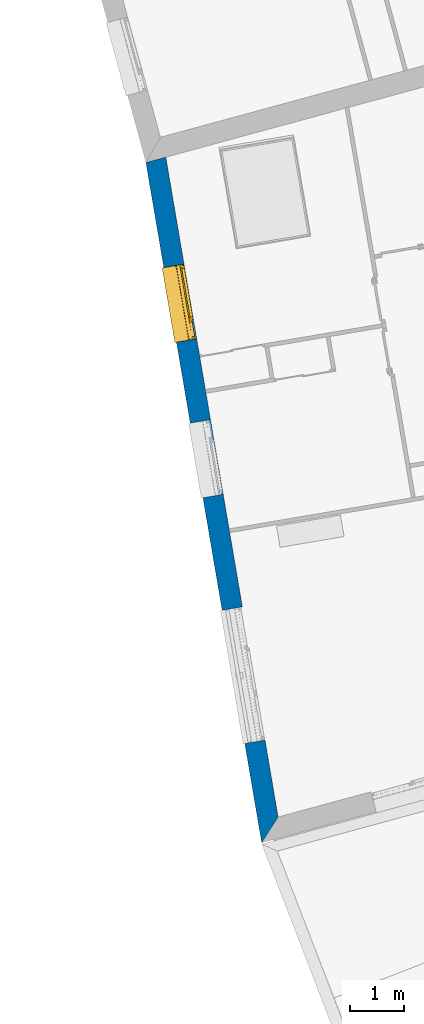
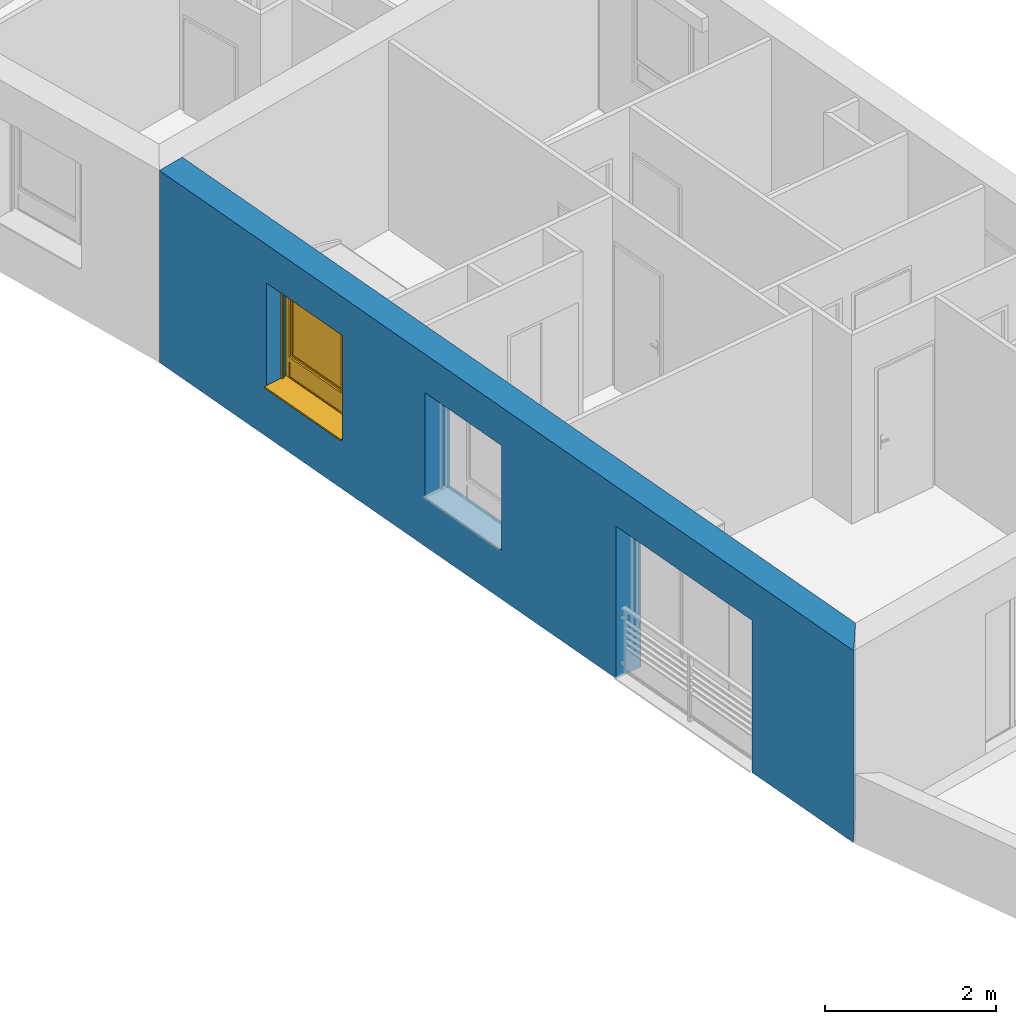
# One storey, part 72 of 121: 1 wall, 1 window, 3 openings.
"""IFC2X3 building model written with IfcOpenShell, lengths in metres."""

from ifc_helpers import new_model, entity, si_unit, converted_unit, derived_unit, money_unit, direction, frame, origin_with_axes, place, context, subcontext, project, spatial, polyline, outline, extrude, open_shell, faceted_brep, surface_model, source, transform, mapped, material, layer, layer_set, layer_usage, type_object, element, fill, save


model = new_model("IFC2X3")

# Units and contexts
model_context = context("Model", 3, precision=1e-05, world=origin_with_axes(), true_north=direction((0.0, 1.0)))
body_context = subcontext(model_context, "Body", "Model", "MODEL_VIEW")
ifc_project = project(units=[si_unit("LENGTHUNIT", "METRE"), si_unit("AREAUNIT", "SQUARE_METRE"), si_unit("VOLUMEUNIT", "CUBIC_METRE"), converted_unit("PLANEANGLEUNIT", "DEGREE", entity("IfcPlaneAngleMeasure", 0.0174532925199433), si_unit("PLANEANGLEUNIT", "RADIAN"), dimensions=[0, 0, 0, 0, 0, 0, 0]), money_unit("CHF"), converted_unit("TIMEUNIT", "Year", entity("IfcTimeMeasure", 31557600.0), si_unit("TIMEUNIT", "SECOND"), dimensions=[0, 0, 1, 0, 0, 0, 0]), si_unit("MASSUNIT", "GRAM", prefix="KILO"), si_unit("THERMODYNAMICTEMPERATUREUNIT", "DEGREE_CELSIUS"), si_unit("LUMINOUSINTENSITYUNIT", "LUMEN"), si_unit("ENERGYUNIT", "JOULE", prefix="MEGA"), derived_unit("THERMALCONDUCTANCEUNIT", [(si_unit("POWERUNIT", "WATT"), 1), (si_unit("LENGTHUNIT", "METRE"), -1), (si_unit("THERMODYNAMICTEMPERATUREUNIT", "KELVIN"), -1)]), derived_unit("SPECIFICHEATCAPACITYUNIT", [(si_unit("ENERGYUNIT", "JOULE"), 1), (si_unit("MASSUNIT", "GRAM", prefix="KILO"), -1), (si_unit("THERMODYNAMICTEMPERATUREUNIT", "KELVIN"), -1)]), derived_unit("MASSDENSITYUNIT", [(si_unit("MASSUNIT", "GRAM", prefix="KILO"), 1), (si_unit("VOLUMEUNIT", "CUBIC_METRE"), -1)])], contexts=[model_context])

# Site, building, storey
site_placement = place(None, origin_with_axes())
site = spatial("IfcSite", under=ifc_project, at=site_placement, Name="Site", CompositionType="ELEMENT")
building_placement = place(site_placement, origin_with_axes())
building = spatial("IfcBuilding", under=site, at=building_placement, Name="Bâtiment", CompositionType="ELEMENT")
storey_placement = place(building_placement, frame((0.0, 0.0, 2.75), z_axis=(0.0, 0.0, 1.0), x_axis=(1.0, 0.0, 0.0)))
storey = spatial("IfcBuildingStorey", under=building, at=storey_placement, Name="Etage 1", CompositionType="ELEMENT", Elevation=2.75)

# Wall, openings, window
ifc_material_1 = material(Name="Parpaing 312445824")
ifc_layer_1 = layer(ifc_material_1, 0.22, ventilated="UNKNOWN")
ifc_material_2 = material(Name="Isolant styromousse 301821074")
ifc_layer_2 = layer(ifc_material_2, 0.16, ventilated="UNKNOWN")
ifc_layer_set = layer_set([ifc_layer_1, ifc_layer_2], Name="isol int 22+16 0836643197")
ifc_layer_usage = layer_usage(ifc_layer_set, "AXIS2", "POSITIVE", 0.0)
wall_type = type_object("IfcWallType", Name="isol int 22+16 0836643197 380", PredefinedType="NOTDEFINED")
wall_placement = place(storey_placement, frame((9579.832207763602, -1023.04273507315, 57.7), z_axis=(0.0, 0.0, 1.0), x_axis=(0.1677527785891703, -0.9858290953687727, 0.0)))
wall = element("IfcWallStandardCase", 1, at=wall_placement, inside=storey, type_object=wall_type, material=ifc_layer_usage, Name="Mur-113", context=body_context, shape_type="SweptSolid", body=[
    extrude(outline(polyline([(0.0, 0.0), (12.75935139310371, 0.0), (12.34045223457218, 0.3800000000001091), (-0.03709306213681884, 0.3800000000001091), (0.0, 0.0)])), origin_with_axes(), (0.0, 0.0, 1.0), 2.75),
])
opening_1_placement = place(wall_placement, frame((2.669998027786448, 0.0, 0.7000000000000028), z_axis=(0.0, 0.0, 1.0), x_axis=(1.0, 0.0, 0.0)))
opening_1 = element("IfcOpeningElement", 2, at=opening_1_placement, cuts=wall, Name="Fen-045", context=body_context, shape_type="Brep", body=[
    faceted_brep([(-0.700000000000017, 0.4799999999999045, 1.5), (0.6999999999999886, 0.4799999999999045, 1.5), (0.6999999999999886, 2.491085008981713, 1.5), (-0.700000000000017, 2.491085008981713, 1.5), (-0.700000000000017, 0.4799999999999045, 1.700000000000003), (0.6999999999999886, 0.4799999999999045, 1.700000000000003), (0.6999999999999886, 0.2999999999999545, 1.5), (0.6999999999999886, 0.2999999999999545, 0.0), (0.6999999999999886, 2.491085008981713, 0.0), (-0.700000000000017, 2.491085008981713, 0.0), (-0.700000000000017, 0.2999999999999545, 1.5), (-0.6999999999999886, 0.2999999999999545, 0.0), (-0.6999999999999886, 0.2199999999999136, 1.5), (-0.6999999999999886, 0.2199999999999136, 1.700000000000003), (0.6999999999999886, 0.2199999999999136, 1.700000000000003), (0.6999999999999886, 0.2199999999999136, 1.5), (0.6999999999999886, -2.111085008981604, 1.5), (0.6999999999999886, -2.111085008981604, 0.0), (-0.700000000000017, -2.111085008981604, 0.0), (-0.700000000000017, -2.111085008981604, 1.5)], [[[0, 1, 2, 3]], [[1, 0, 4, 5]], [[1, 6, 7, 8, 2]], [[2, 8, 9, 3]], [[10, 0, 3, 9, 11]], [[0, 10, 12, 13, 4]], [[14, 5, 4, 13]], [[6, 1, 5, 14, 15]], [[6, 15, 16, 17, 7]], [[7, 11, 9, 8]], [[12, 10, 11, 18, 19]], [[12, 15, 14, 13]], [[15, 12, 19, 16]], [[19, 18, 17, 16]], [[11, 7, 17, 18]]]),
])
opening_2_placement = place(wall_placement, frame((5.587342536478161, 0.0, 0.7000000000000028), z_axis=(0.0, 0.0, 1.0), x_axis=(1.0, 0.0, 0.0)))
element("IfcOpeningElement", 3, at=opening_2_placement, cuts=wall, Name="Fen-045", context=body_context, shape_type="Brep", body=[
    faceted_brep([(-0.700000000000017, 0.4799999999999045, 1.5), (0.6999999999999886, 0.4799999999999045, 1.5), (0.6999999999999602, 2.491085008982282, 1.5), (-0.7000000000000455, 2.491085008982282, 1.5), (-0.700000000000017, 0.4799999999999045, 1.700000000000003), (0.6999999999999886, 0.4799999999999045, 1.700000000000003), (0.6999999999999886, 0.2999999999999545, 1.5), (0.6999999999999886, 0.2999999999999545, 0.0), (0.6999999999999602, 2.491085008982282, 0.0), (-0.7000000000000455, 2.491085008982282, 0.0), (-0.700000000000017, 0.2999999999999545, 1.5), (-0.700000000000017, 0.2999999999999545, 0.0), (-0.6999999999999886, 0.2199999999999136, 1.5), (-0.6999999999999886, 0.2199999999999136, 1.700000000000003), (0.6999999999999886, 0.2199999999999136, 1.700000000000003), (0.6999999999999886, 0.2199999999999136, 1.5), (0.6999999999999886, -2.1110850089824, 1.5), (0.6999999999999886, -2.1110850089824, 0.0), (-0.700000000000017, -2.1110850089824, 0.0), (-0.700000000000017, -2.1110850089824, 1.5)], [[[0, 1, 2, 3]], [[1, 0, 4, 5]], [[1, 6, 7, 8, 2]], [[2, 8, 9, 3]], [[10, 0, 3, 9, 11]], [[0, 10, 12, 13, 4]], [[4, 13, 14, 5]], [[6, 1, 5, 14, 15]], [[6, 15, 16, 17, 7]], [[7, 11, 9, 8]], [[12, 10, 11, 18, 19]], [[12, 15, 14, 13]], [[15, 12, 19, 16]], [[19, 18, 17, 16]], [[11, 7, 17, 18]]]),
])
opening_3_placement = place(wall_placement, frame((9.646856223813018, 0.0, 0.0), z_axis=(0.0, 0.0, 1.0), x_axis=(1.0, 0.0, 0.0)))
element("IfcOpeningElement", 4, at=opening_3_placement, cuts=wall, Name="Fen-045", context=body_context, shape_type="Brep", body=[
    faceted_brep([(-1.25, 0.4800000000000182, 2.18), (1.25, 0.4800000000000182, 2.18), (1.25, 2.491085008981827, 2.18), (-1.25, 2.491085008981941, 2.18), (-1.25, 0.4800000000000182, 2.380000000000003), (1.25, 0.4800000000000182, 2.380000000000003), (1.25, 0.2999999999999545, 2.18), (1.25, 0.2999999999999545, 0.0), (1.25, 2.491085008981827, 0.0), (-1.25, 2.491085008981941, 0.0), (-1.25, 0.3000000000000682, 2.18), (-1.25, 0.3000000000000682, 0.0), (-1.25, 0.2199999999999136, 2.18), (-1.25, 0.2199999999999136, 2.380000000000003), (1.25, 0.220000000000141, 2.380000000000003), (1.25, 0.220000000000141, 2.18), (1.25, -2.111085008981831, 2.18), (1.25, -2.111085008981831, 0.0), (-1.25, -2.111085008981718, 0.0), (-1.25, -2.111085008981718, 2.18)], [[[0, 1, 2, 3]], [[1, 0, 4, 5]], [[1, 6, 7, 8, 2]], [[2, 8, 9, 3]], [[10, 0, 3, 9, 11]], [[0, 10, 12, 13, 4]], [[4, 13, 14, 5]], [[6, 1, 5, 14, 15]], [[6, 15, 16, 17, 7]], [[7, 11, 9, 8]], [[12, 10, 11, 18, 19]], [[12, 15, 14, 13]], [[15, 12, 19, 16]], [[19, 18, 17, 16]], [[11, 7, 17, 18]]]),
])
window_style = type_object("IfcWindowStyle", Name="Fenêtre variable 27", ConstructionType="NOTDEFINED", OperationType="TRIPLE_PANEL_RIGHT", ParameterTakesPrecedence=False, Sizeable=False)
shared_shape = source(origin_with_axes(), body_context, "Body", "SurfaceModel", [
    surface_model("IfcShellBasedSurfaceModel", [(-0.7, -0.05100000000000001, 0.05), (-0.7, -0.05100000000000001, 0.04), (0.7, -0.05100000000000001, 0.04000000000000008), (0.7, -0.05100000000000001, 0.05000000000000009), (-0.7, -0.3799999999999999, 0.02899999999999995), (0.7, -0.3799999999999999, 0.02900000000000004), (-0.7, -0.3799999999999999, 0.008999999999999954), (0.7, -0.3799999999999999, 0.00900000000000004), (-0.7, -0.3699999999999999, 0.01899999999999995), (0.7, -0.3699999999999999, 0.01900000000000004)], [open_shell([[[0, 1, 2, 3]], [[1, 4, 5, 2]], [[4, 6, 7, 5]], [[6, 8, 9, 7]]])]),
    faceted_brep([(-0.7, -0.13, 1.7), (-0.697, -0.13, 1.7), (-0.697, 0.13, 1.7), (-0.7, 0.13, 1.7), (-0.7, -0.13, 1.5), (-0.697, -0.13, 1.5), (-0.697, 0.13, 1.5), (-0.7, 0.13, 1.5)], [[[0, 1, 2, 3]], [[4, 5, 1, 0]], [[1, 5, 6, 2]], [[3, 2, 6, 7]], [[0, 3, 7, 4]], [[7, 6, 5, 4]]]),
    faceted_brep([(0.6970000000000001, -0.1299999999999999, 1.7), (0.7000000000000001, -0.1299999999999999, 1.7), (0.7000000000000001, 0.1300000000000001, 1.7), (0.6970000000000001, 0.1300000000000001, 1.7), (0.6970000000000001, -0.1299999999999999, 1.5), (0.7000000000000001, -0.1299999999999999, 1.5), (0.7000000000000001, 0.1300000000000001, 1.5), (0.6970000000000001, 0.1300000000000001, 1.5)], [[[0, 1, 2, 3]], [[4, 5, 1, 0]], [[1, 5, 6, 2]], [[3, 2, 6, 7]], [[0, 3, 7, 4]], [[7, 6, 5, 4]]]),
    faceted_brep([(-0.697, -0.13, 1.5), (0.697, -0.1299999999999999, 1.5), (0.697, -0.1299999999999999, 1.7), (-0.697, -0.13, 1.7), (-0.697, -0.127, 1.5), (0.697, -0.1269999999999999, 1.5), (0.697, -0.1269999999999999, 1.697), (0.697, 0.1270000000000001, 1.697), (0.697, 0.1270000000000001, 1.503), (0.697, -0.1079999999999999, 1.503), (0.697, -0.1079999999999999, 1.5), (0.697, 0.1300000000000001, 1.5), (0.697, 0.1300000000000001, 1.7), (-0.697, 0.13, 1.7), (-0.697, 0.13, 1.5), (-0.697, -0.108, 1.5), (-0.697, -0.108, 1.503), (-0.697, 0.127, 1.503), (-0.697, 0.127, 1.697), (-0.697, -0.127, 1.697)], [[[0, 1, 2, 3]], [[4, 5, 1, 0]], [[1, 5, 6, 7, 8, 9, 10, 11, 12, 2]], [[3, 2, 12, 13]], [[0, 3, 13, 14, 15, 16, 17, 18, 19, 4]], [[19, 6, 5, 4]], [[18, 7, 6, 19]], [[17, 8, 7, 18]], [[16, 9, 8, 17]], [[15, 10, 9, 16]], [[14, 11, 10, 15]], [[13, 12, 11, 14]]]),
    faceted_brep([(-0.694, -0.08075423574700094, 1.585760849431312), (-0.694, -0.08200000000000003, 1.6), (-0.694, -0.0807542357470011, 1.614239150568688), (-0.694, -0.07705479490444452, 1.628045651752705), (-0.694, -0.07101408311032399, 1.641), (-0.694, -0.06281564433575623, 1.652708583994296), (-0.694, -0.05270858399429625, 1.662815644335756), (-0.694, -0.04100000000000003, 1.671014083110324), (-0.694, -0.02804565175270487, 1.677054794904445), (-0.694, -0.01423915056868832, 1.680754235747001), (-0.694, 0.0, 1.682), (-0.694, 0.01423915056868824, 1.680754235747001), (-0.694, 0.02804565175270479, 1.677054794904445), (-0.694, 0.04099999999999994, 1.671014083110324), (-0.694, 0.05270858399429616, 1.662815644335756), (-0.694, 0.06281564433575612, 1.652708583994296), (-0.694, 0.07101408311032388, 1.641), (-0.694, 0.0770547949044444, 1.628045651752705), (-0.694, 0.08075423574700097, 1.614239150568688), (-0.694, 0.0819999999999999, 1.6), (-0.694, 0.08075423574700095, 1.585760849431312), (-0.694, 0.07705479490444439, 1.571954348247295), (-0.694, 0.07101408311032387, 1.559), (-0.694, 0.06281564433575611, 1.547291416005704), (-0.694, 0.05270858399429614, 1.537184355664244), (-0.694, 0.04099999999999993, 1.528985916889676), (-0.694, 0.02804565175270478, 1.522945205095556), (-0.694, 0.01423915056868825, 1.519245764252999), (-0.694, 0.0, 1.518), (-0.694, -0.01423915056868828, 1.519245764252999), (-0.694, -0.02804565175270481, 1.522945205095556), (-0.694, -0.04099999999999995, 1.528985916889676), (-0.694, -0.05270858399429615, 1.537184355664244), (-0.694, -0.06281564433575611, 1.547291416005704), (-0.694, -0.07101408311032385, 1.559), (-0.694, -0.07705479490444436, 1.571954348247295), (0.694, -0.08075423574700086, 1.585760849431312), (0.694, -0.08199999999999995, 1.6), (0.694, -0.08075423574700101, 1.614239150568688), (0.694, -0.07705479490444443, 1.628045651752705), (0.694, -0.07101408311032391, 1.641), (0.694, -0.06281564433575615, 1.652708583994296), (0.694, -0.05270858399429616, 1.662815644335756), (0.694, -0.04099999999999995, 1.671014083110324), (0.694, -0.02804565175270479, 1.677054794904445), (0.694, -0.01423915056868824, 1.680754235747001), (0.694, 0.0, 1.682), (0.694, 0.01423915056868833, 1.680754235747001), (0.694, 0.02804565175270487, 1.677054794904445), (0.694, 0.04100000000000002, 1.671014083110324), (0.694, 0.05270858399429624, 1.662815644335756), (0.694, 0.0628156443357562, 1.652708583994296), (0.694, 0.07101408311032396, 1.641), (0.694, 0.07705479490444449, 1.628045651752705), (0.694, 0.08075423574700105, 1.614239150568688), (0.694, 0.08199999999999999, 1.6), (0.694, 0.08075423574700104, 1.585760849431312), (0.694, 0.07705479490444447, 1.571954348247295), (0.694, 0.07101408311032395, 1.559), (0.694, 0.06281564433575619, 1.547291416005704), (0.694, 0.05270858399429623, 1.537184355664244), (0.694, 0.04100000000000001, 1.528985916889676), (0.694, 0.02804565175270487, 1.522945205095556), (0.694, 0.01423915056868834, 1.519245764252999), (0.694, 0.0, 1.518), (0.694, -0.0142391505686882, 1.519245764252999), (0.694, -0.02804565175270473, 1.522945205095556), (0.694, -0.04099999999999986, 1.528985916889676), (0.694, -0.05270858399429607, 1.537184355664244), (0.694, -0.06281564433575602, 1.547291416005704), (0.694, -0.07101408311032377, 1.559), (0.694, -0.07705479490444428, 1.571954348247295)], [[[0, 1, 2, 3, 4, 5, 6, 7, 8, 9, 10, 11, 12, 13, 14, 15, 16, 17, 18, 19, 20, 21, 22, 23, 24, 25, 26, 27, 28, 29, 30, 31, 32, 33, 34, 35]], [[0, 36, 37, 1]], [[1, 37, 38, 2]], [[2, 38, 39, 3]], [[3, 39, 40, 4]], [[4, 40, 41, 5]], [[5, 41, 42, 6]], [[6, 42, 43, 7]], [[7, 43, 44, 8]], [[8, 44, 45, 9]], [[9, 45, 46, 10]], [[10, 46, 47, 11]], [[11, 47, 48, 12]], [[12, 48, 49, 13]], [[13, 49, 50, 14]], [[14, 50, 51, 15]], [[15, 51, 52, 16]], [[16, 52, 53, 17]], [[17, 53, 54, 18]], [[18, 54, 55, 19]], [[19, 55, 56, 20]], [[20, 56, 57, 21]], [[21, 57, 58, 22]], [[22, 58, 59, 23]], [[23, 59, 60, 24]], [[24, 60, 61, 25]], [[25, 61, 62, 26]], [[26, 62, 63, 27]], [[27, 63, 64, 28]], [[28, 64, 65, 29]], [[29, 65, 66, 30]], [[30, 66, 67, 31]], [[31, 67, 68, 32]], [[32, 68, 69, 33]], [[33, 69, 70, 34]], [[34, 70, 71, 35]], [[35, 71, 36, 0]], [[36, 71, 70, 69, 68, 67, 66, 65, 64, 63, 62, 61, 60, 59, 58, 57, 56, 55, 54, 53, 52, 51, 50, 49, 48, 47, 46, 45, 44, 43, 42, 41, 40, 39, 38, 37]]]),
    faceted_brep([(0.7, -0.105, 0.03), (0.7, -0.1049999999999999, 1.5), (0.7, -0.1299999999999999, 1.5), (0.7, -0.13, 0.03), (0.6749999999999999, -0.105, 0.03), (0.6749999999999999, -0.1049999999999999, 1.5), (0.6749999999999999, -0.1079999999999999, 1.5), (0.697, -0.1079999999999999, 1.5), (0.697, -0.1269999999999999, 1.5), (0.6749999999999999, -0.1269999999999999, 1.5), (0.6749999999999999, -0.1299999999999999, 1.5), (0.6749999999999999, -0.13, 0.03), (0.6749999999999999, -0.127, 0.03), (0.697, -0.127, 0.03), (0.697, -0.108, 0.03), (0.6749999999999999, -0.108, 0.03)], [[[0, 1, 2, 3]], [[4, 5, 1, 0]], [[1, 5, 6, 7, 8, 9, 10, 2]], [[3, 2, 10, 11]], [[0, 3, 11, 12, 13, 14, 15, 4]], [[15, 6, 5, 4]], [[14, 7, 6, 15]], [[13, 8, 7, 14]], [[12, 9, 8, 13]], [[11, 10, 9, 12]]]),
    faceted_brep([(-0.7, -0.105, 0.03), (-0.7, -0.13, 0.03), (-0.7, -0.1299999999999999, 1.5), (-0.7, -0.1049999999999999, 1.5), (-0.6749999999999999, -0.105, 0.03), (-0.6749999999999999, -0.108, 0.03), (-0.697, -0.108, 0.03), (-0.697, -0.127, 0.03), (-0.6749999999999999, -0.127, 0.03), (-0.6749999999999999, -0.13, 0.03), (-0.6749999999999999, -0.1299999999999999, 1.5), (-0.6749999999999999, -0.1269999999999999, 1.5), (-0.697, -0.1269999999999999, 1.5), (-0.697, -0.1079999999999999, 1.5), (-0.6749999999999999, -0.1079999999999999, 1.5), (-0.6749999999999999, -0.1049999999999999, 1.5)], [[[0, 1, 2, 3]], [[0, 4, 5, 6, 7, 8, 9, 1]], [[1, 9, 10, 2]], [[3, 2, 10, 11, 12, 13, 14, 15]], [[4, 0, 3, 15]], [[5, 4, 15, 14]], [[6, 5, 14, 13]], [[7, 6, 13, 12]], [[8, 7, 12, 11]], [[9, 8, 11, 10]]]),
    surface_model("IfcShellBasedSurfaceModel", [(-0.697, -0.115, 1.6), (0.697, -0.1149999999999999, 1.6), (0.697, -0.1199999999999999, 1.6), (-0.697, -0.12, 1.6), (-0.697, -0.115, 1.6), (-0.697, -0.12, 1.6), (0.697, -0.12, 1.6), (0.697, -0.1149999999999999, 1.6)], [open_shell([[[0, 1, 2, 3]], [[4, 5, 6, 7]]])]),
    faceted_brep([(-0.697, -0.115, 1.6), (0.697, -0.1149999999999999, 1.6), (0.697, -0.1166666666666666, 1.583333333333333), (-0.697, -0.1166666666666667, 1.583333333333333), (-0.697, -0.12, 1.6), (0.697, -0.1199999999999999, 1.6), (0.697, -0.1216666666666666, 1.583333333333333), (0.697, -0.1216666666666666, 1.566666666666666), (0.697, -0.1199999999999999, 1.55), (0.697, -0.1149999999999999, 1.55), (0.697, -0.1166666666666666, 1.566666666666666), (-0.697, -0.1166666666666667, 1.566666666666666), (-0.697, -0.115, 1.55), (-0.697, -0.12, 1.55), (-0.697, -0.1216666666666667, 1.566666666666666), (-0.697, -0.1216666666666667, 1.583333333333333)], [[[0, 1, 2, 3]], [[4, 5, 1, 0]], [[1, 5, 6, 7, 8, 9, 10, 2]], [[3, 2, 10, 11]], [[0, 3, 11, 12, 13, 14, 15, 4]], [[15, 6, 5, 4]], [[14, 7, 6, 15]], [[13, 8, 7, 14]], [[12, 9, 8, 13]], [[11, 10, 9, 12]]]),
    faceted_brep([(-0.697, -0.115, 1.55), (0.697, -0.1149999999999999, 1.55), (0.697, -0.1166666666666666, 1.533333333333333), (-0.697, -0.1166666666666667, 1.533333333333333), (-0.697, -0.12, 1.55), (0.697, -0.1199999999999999, 1.55), (0.697, -0.1216666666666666, 1.533333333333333), (0.697, -0.1216666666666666, 1.516666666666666), (0.697, -0.1199999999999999, 1.5), (0.697, -0.1149999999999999, 1.5), (0.697, -0.1166666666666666, 1.516666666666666), (-0.697, -0.1166666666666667, 1.516666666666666), (-0.697, -0.115, 1.5), (-0.697, -0.12, 1.5), (-0.697, -0.1216666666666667, 1.516666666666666), (-0.697, -0.1216666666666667, 1.533333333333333)], [[[0, 1, 2, 3]], [[4, 5, 1, 0]], [[1, 5, 6, 7, 8, 9, 10, 2]], [[3, 2, 10, 11]], [[0, 3, 11, 12, 13, 14, 15, 4]], [[15, 6, 5, 4]], [[14, 7, 6, 15]], [[13, 8, 7, 14]], [[12, 9, 8, 13]], [[11, 10, 9, 12]]]),
    faceted_brep([(-0.6749999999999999, 0.0, 1.45), (-0.7, 0.0, 1.45), (-0.7, -0.05000000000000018, 1.45), (-0.6499999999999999, -0.05000000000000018, 1.45), (-0.6499999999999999, -0.02500000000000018, 1.45), (-0.6749999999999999, -0.02500000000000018, 1.45), (-0.6749999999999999, 0.0, 0.3099999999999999), (-0.6499999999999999, 0.0, 0.3099999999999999), (-0.6499999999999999, 0.0, 0.265), (-0.6499999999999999, 0.0, 0.05000000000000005), (-0.7, 0.0, 0.05000000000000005), (-0.7, -0.05000000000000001, 0.05000000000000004), (-0.6499999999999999, -0.05000000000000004, 0.335), (-0.6499999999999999, -0.05000000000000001, 0.05000000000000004), (-0.6499999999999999, -0.05000000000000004, 0.265), (-0.6499999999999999, -0.02500000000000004, 0.335), (-0.6499999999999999, -0.02500000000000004, 0.3099999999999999), (-0.6749999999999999, -0.02500000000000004, 0.3099999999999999)], [[[0, 1, 2, 3, 4, 5]], [[6, 7, 8, 9, 10, 1, 0]], [[1, 10, 11, 2]], [[12, 3, 2, 11, 13, 14]], [[4, 3, 12, 15]], [[15, 16, 17, 5, 4]], [[5, 17, 6, 0]], [[6, 17, 16, 7]], [[16, 15, 12, 14, 8, 7]], [[9, 8, 14, 13]], [[10, 9, 13, 11]]]),
    faceted_brep([(0.3068894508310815, -0.02500000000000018, 1.45), (0.3068894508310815, -0.05000000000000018, 1.45), (0.3768894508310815, -0.05000000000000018, 1.45), (0.3768894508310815, 0.0, 1.45), (0.3318894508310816, 0.0, 1.45), (0.3318894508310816, -0.02500000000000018, 1.45), (0.3068894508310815, -0.02500000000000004, 0.335), (0.3068894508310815, -0.05000000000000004, 0.335), (0.3068894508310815, -0.05000000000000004, 0.265), (0.3068894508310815, -0.05000000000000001, 0.05000000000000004), (0.3768894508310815, -0.05000000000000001, 0.05000000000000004), (0.3768894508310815, 0.0, 0.05000000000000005), (0.3318894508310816, 0.0, 0.3099999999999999), (0.3068894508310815, 0.0, 0.05000000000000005), (0.3068894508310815, 0.0, 0.265), (0.3068894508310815, 0.0, 0.3099999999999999), (0.3318894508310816, -0.02500000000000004, 0.3099999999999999), (0.3068894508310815, -0.02500000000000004, 0.3099999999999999)], [[[0, 1, 2, 3, 4, 5]], [[6, 7, 1, 0]], [[8, 9, 10, 2, 1, 7]], [[11, 3, 2, 10]], [[12, 4, 3, 11, 13, 14, 15]], [[12, 16, 5, 4]], [[5, 16, 17, 6, 0]], [[17, 15, 14, 8, 7, 6]], [[14, 13, 9, 8]], [[13, 11, 10, 9]], [[15, 17, 16, 12]]]),
    faceted_brep([(-0.6499999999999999, -0.02500000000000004, 0.335), (-0.6499999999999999, -0.05000000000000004, 0.335), (0.3068894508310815, -0.05000000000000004, 0.335), (0.3068894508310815, -0.02500000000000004, 0.335), (-0.6499999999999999, -0.02500000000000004, 0.3099999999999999), (-0.6499999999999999, 0.0, 0.3099999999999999), (-0.6499999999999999, 0.0, 0.265), (-0.6499999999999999, -0.05000000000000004, 0.265), (0.3068894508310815, -0.05000000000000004, 0.265), (0.3068894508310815, -0.02500000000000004, 0.3099999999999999), (0.3068894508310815, 0.0, 0.265), (0.3068894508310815, 0.0, 0.3099999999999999)], [[[0, 1, 2, 3]], [[4, 5, 6, 7, 1, 0]], [[2, 1, 7, 8]], [[9, 3, 2, 8, 10, 11]], [[9, 4, 0, 3]], [[5, 4, 9, 11]], [[11, 10, 6, 5]], [[6, 10, 8, 7]]]),
    faceted_brep([(-0.6749999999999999, 0.0, 1.45), (-0.7, 0.0, 1.45), (-0.7, 0.0, 1.5), (0.7, 0.0, 1.5), (0.7, 0.0, 1.45), (0.6499999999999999, 0.0, 1.45), (0.3768894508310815, 0.0, 1.45), (0.3318894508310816, 0.0, 1.45), (0.3318894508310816, 0.0, 1.475), (-0.6749999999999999, 0.0, 1.475), (-0.6749999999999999, -0.02500000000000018, 1.45), (-0.6499999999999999, -0.02500000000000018, 1.45), (-0.6499999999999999, -0.05000000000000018, 1.45), (-0.7, -0.05000000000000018, 1.45), (-0.7, -0.05000000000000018, 1.5), (0.7, -0.05000000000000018, 1.5), (0.7, -0.05000000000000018, 1.45), (0.6499999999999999, -0.05000000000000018, 1.45), (0.3768894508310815, -0.05000000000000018, 1.45), (0.3318894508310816, -0.02500000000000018, 1.45), (0.3068894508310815, -0.05000000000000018, 1.45), (0.3068894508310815, -0.02500000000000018, 1.45), (0.3318894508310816, -0.02500000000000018, 1.475), (-0.6749999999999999, -0.02500000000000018, 1.475)], [[[0, 1, 2, 3, 4, 5, 6, 7, 8, 9]], [[10, 11, 12, 13, 1, 0]], [[2, 1, 13, 14]], [[3, 2, 14, 15]], [[4, 3, 15, 16]], [[5, 4, 16, 17]], [[6, 5, 17, 18]], [[19, 7, 6, 18, 20, 21]], [[7, 19, 22, 8]], [[8, 22, 23, 9]], [[9, 23, 10, 0]], [[21, 11, 10, 23, 22, 19]], [[21, 20, 12, 11]], [[18, 17, 16, 15, 14, 13, 12, 20]]]),
    faceted_brep([(0.6499999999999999, -0.05000000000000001, 0.05), (0.6499999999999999, 0.0, 0.05000000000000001), (0.7, 0.0, 0.05000000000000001), (0.7, -0.05000000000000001, 0.05), (0.6499999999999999, -0.05000000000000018, 1.45), (0.6499999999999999, 0.0, 1.45), (0.7, 0.0, 1.45), (0.7, -0.05000000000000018, 1.45)], [[[0, 1, 2, 3]], [[4, 5, 1, 0]], [[1, 5, 6, 2]], [[3, 2, 6, 7]], [[0, 3, 7, 4]], [[7, 6, 5, 4]]]),
    faceted_brep([(-0.6499999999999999, -0.05000000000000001, 0.05), (-0.6499999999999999, 0.0, 0.05000000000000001), (-0.7, 0.0, 0.05000000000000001), (-0.7, -0.05000000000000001, 0.05), (0.3068894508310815, -0.05000000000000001, 0.05), (0.3068894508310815, 0.0, 0.05000000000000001), (0.3768894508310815, 0.0, 0.05000000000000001), (0.6499999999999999, 0.0, 0.05000000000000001), (0.7, 0.0, 0.05000000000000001), (0.7, 0.0, 0.0), (-0.7, 0.0, 0.0), (-0.7, -0.05, 0.0), (0.7, -0.05, 0.0), (0.7, -0.05000000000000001, 0.05), (0.6499999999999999, -0.05000000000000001, 0.05), (0.3768894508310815, -0.05000000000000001, 0.05)], [[[0, 1, 2, 3]], [[4, 5, 1, 0]], [[1, 5, 6, 7, 8, 9, 10, 2]], [[3, 2, 10, 11]], [[0, 3, 11, 12, 13, 14, 15, 4]], [[15, 6, 5, 4]], [[14, 7, 6, 15]], [[13, 8, 7, 14]], [[12, 9, 8, 13]], [[11, 10, 9, 12]]]),
    faceted_brep([(-0.625, -0.02500000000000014, 1.425), (-0.625, 0.02499999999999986, 1.425), (-0.6749999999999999, 0.02499999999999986, 1.425), (-0.6749999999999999, -0.02500000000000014, 1.425), (-0.625, -0.02500000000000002, 0.3599999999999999), (-0.625, 0.02499999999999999, 0.3599999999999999), (-0.6749999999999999, 0.02499999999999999, 0.3599999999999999), (-0.6749999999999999, -0.02500000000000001, 0.3599999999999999)], [[[0, 1, 2, 3]], [[4, 5, 1, 0]], [[1, 5, 6, 2]], [[3, 2, 6, 7]], [[0, 3, 7, 4]], [[7, 6, 5, 4]]]),
    faceted_brep([(0.2818894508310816, -0.02500000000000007, 0.3599999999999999), (0.2818894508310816, 0.02499999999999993, 0.3599999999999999), (0.3318894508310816, 0.02499999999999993, 0.3599999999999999), (0.3318894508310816, -0.02500000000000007, 0.3599999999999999), (0.2818894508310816, -0.0250000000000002, 1.425), (0.2818894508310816, 0.0249999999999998, 1.425), (0.3318894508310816, 0.0249999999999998, 1.425), (0.3318894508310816, -0.0250000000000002, 1.425)], [[[0, 1, 2, 3]], [[4, 5, 1, 0]], [[1, 5, 6, 2]], [[3, 2, 6, 7]], [[0, 3, 7, 4]], [[7, 6, 5, 4]]]),
    faceted_brep([(0.3318894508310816, -0.02500000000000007, 0.3099999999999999), (0.3318894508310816, 0.02499999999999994, 0.3099999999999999), (0.3318894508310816, 0.02499999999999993, 0.3599999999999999), (0.3318894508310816, -0.02500000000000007, 0.3599999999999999), (-0.6749999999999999, -0.025, 0.3099999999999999), (-0.6749999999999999, 0.02499999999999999, 0.3099999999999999), (-0.6749999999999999, 0.02499999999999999, 0.3599999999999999), (-0.625, 0.02499999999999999, 0.3599999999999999), (0.2818894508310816, 0.02499999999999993, 0.3599999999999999), (0.2818894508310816, -0.02500000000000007, 0.3599999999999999), (-0.625, -0.02500000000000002, 0.3599999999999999), (-0.6749999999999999, -0.02500000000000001, 0.3599999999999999)], [[[0, 1, 2, 3]], [[4, 5, 1, 0]], [[1, 5, 6, 7, 8, 2]], [[3, 2, 8, 9]], [[0, 3, 9, 10, 11, 4]], [[11, 6, 5, 4]], [[10, 7, 6, 11]], [[9, 8, 7, 10]]]),
    faceted_brep([(-0.6749999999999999, -0.02500000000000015, 1.475), (-0.6749999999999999, 0.02499999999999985, 1.475), (-0.6749999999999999, 0.02499999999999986, 1.425), (-0.6749999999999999, -0.02500000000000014, 1.425), (0.3318894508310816, -0.02500000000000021, 1.475), (0.3318894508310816, 0.02499999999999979, 1.475), (0.3318894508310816, 0.0249999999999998, 1.425), (0.2818894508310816, 0.0249999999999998, 1.425), (-0.625, 0.02499999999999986, 1.425), (-0.625, -0.02500000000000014, 1.425), (0.2818894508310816, -0.0250000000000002, 1.425), (0.3318894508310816, -0.0250000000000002, 1.425)], [[[0, 1, 2, 3]], [[4, 5, 1, 0]], [[1, 5, 6, 7, 8, 2]], [[3, 2, 8, 9]], [[0, 3, 9, 10, 11, 4]], [[11, 6, 5, 4]], [[10, 7, 6, 11]], [[9, 8, 7, 10]]]),
    surface_model("IfcShellBasedSurfaceModel", [(-0.625, -0.01000000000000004, 0.3599999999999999), (0.2818894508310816, -0.01000000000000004, 0.3599999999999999), (0.2818894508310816, -0.01000000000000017, 1.425), (-0.625, -0.01000000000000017, 1.425)], [open_shell([[[0, 1, 2, 3]]])]),
    surface_model("IfcShellBasedSurfaceModel", [(-0.625, 0.009999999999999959, 0.3599999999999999), (-0.625, 0.00999999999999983, 1.425), (0.2818894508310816, 0.00999999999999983, 1.425), (0.2818894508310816, 0.009999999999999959, 0.3599999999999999)], [open_shell([[[0, 1, 2, 3]]])]),
    surface_model("IfcShellBasedSurfaceModel", [(0.3768894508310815, -0.035, 0.05), (0.65, -0.035, 0.05), (0.65, -0.03500000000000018, 1.45), (0.3768894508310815, -0.03500000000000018, 1.45)], [open_shell([[[0, 1, 2, 3]]])]),
    surface_model("IfcShellBasedSurfaceModel", [(0.3768894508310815, -0.015, 0.05), (0.3768894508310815, -0.01500000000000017, 1.45), (0.65, -0.01500000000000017, 1.45), (0.65, -0.015, 0.05)], [open_shell([[[0, 1, 2, 3]]])]),
    surface_model("IfcShellBasedSurfaceModel", [(-0.6499999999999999, -0.035, 0.05), (0.3068894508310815, -0.035, 0.05), (0.3068894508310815, -0.03500000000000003, 0.265), (-0.6499999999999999, -0.03500000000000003, 0.265)], [open_shell([[[0, 1, 2, 3]]])]),
    surface_model("IfcShellBasedSurfaceModel", [(-0.6499999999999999, -0.015, 0.05), (-0.6499999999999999, -0.01500000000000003, 0.265), (0.3068894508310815, -0.01500000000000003, 0.265), (0.3068894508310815, -0.015, 0.05)], [open_shell([[[0, 1, 2, 3]]])]),
])
window_placement = place(opening_1_placement, frame((-0.7000000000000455, 0.0, 0.0), z_axis=(0.0, 0.0, 1.0), x_axis=(1.0, 0.0, 0.0)))
window = element("IfcWindow", 5, at=window_placement, inside=storey, type_object=window_style, Name="Fen-045", OverallHeight=1.5, OverallWidth=1.4, context=body_context, shape_type="MappedRepresentation", body=[
    mapped(shared_shape, transform((0.6999999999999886, 0.3500000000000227, 0.0))),
])
fill(opening_1, window)

save(model, "model.ifc")
